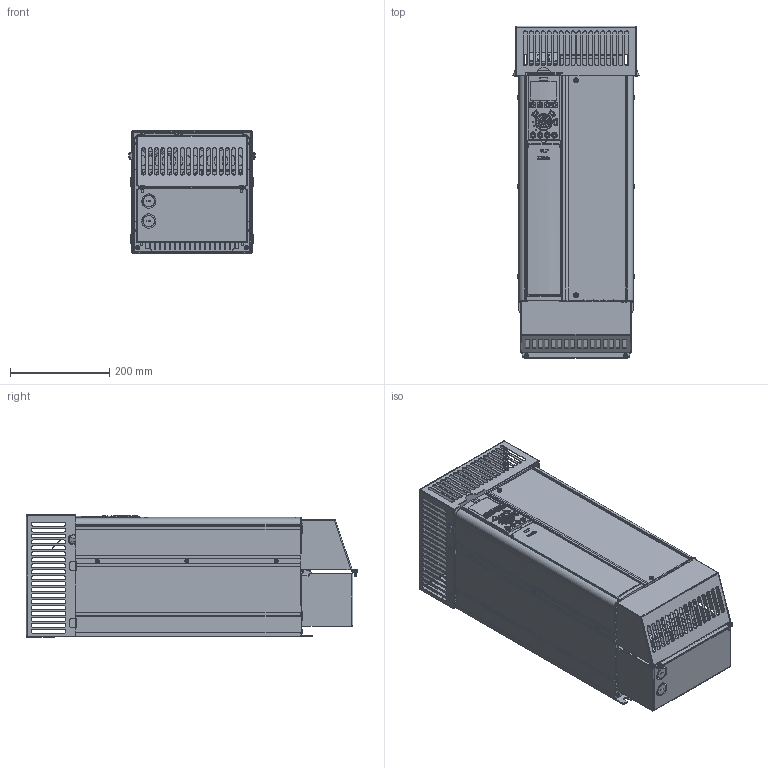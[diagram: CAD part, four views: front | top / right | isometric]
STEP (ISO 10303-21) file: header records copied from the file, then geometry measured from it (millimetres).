
FILE_DESCRIPTION((''),'2;1');
FILE_NAME('DANFOSS-FC100B4NEMA1KIT-OPT-191','2008-07-15T',('Abhilash.Paramesh'),('dan Drives A/S'),'PRO/ENGINEER BY PARAMETRIC TECHNOLOGY CORPORATION, 2007160','PRO/ENGINEER BY PARAMETRIC TECHNOLOGY CORPORATION, 2007160','');
FILE_SCHEMA(('CONFIG_CONTROL_DESIGN', 'GEOMETRIC_VALIDATION_PROPERTIES_MIM'));
Products named in the file (1): DANFOSS-FC100B4NEMA1KIT-OPT-191
Bounding box: 254.72 x 668 x 246 mm (x, y, z)
Volume: 22241806.4 mm3; surface area: 1831536.2 mm2
Topology: 1 solids, 33 shells, 5707 faces, 15604 edges, 9916 vertices
Faces by surface type: plane 3020, cylinder 1668, bspline 601, torus 163, sphere 92, extrusion 89, cone 74
Entity records: 245718 total; most frequent: CARTESIAN_POINT 80685, ORIENTED_EDGE 31042, DIRECTION 25487, EDGE_CURVE 15521, VERTEX_POINT 9916, VECTOR 8647, LINE 8558, AXIS2_PLACEMENT_3D 8420
